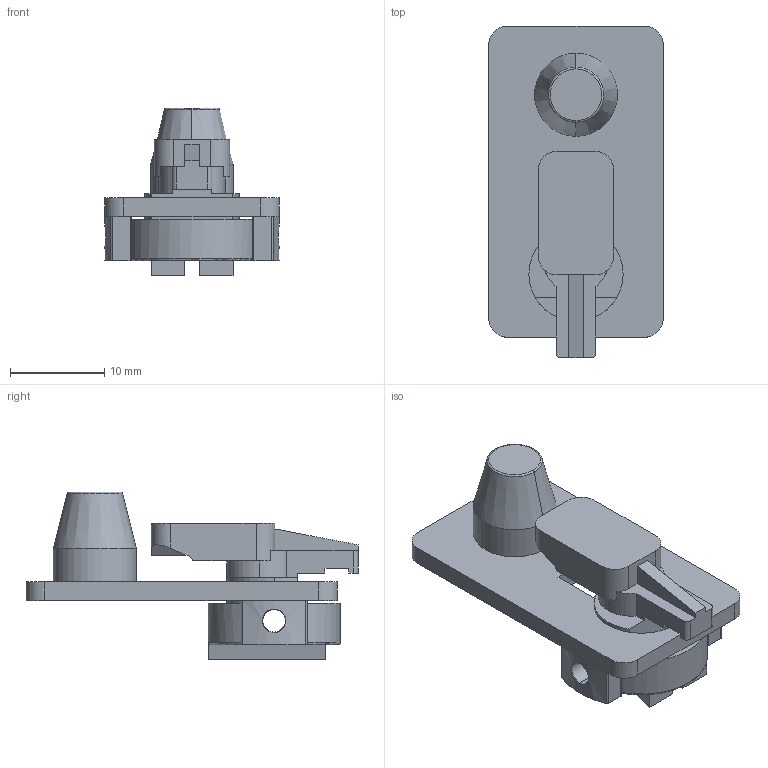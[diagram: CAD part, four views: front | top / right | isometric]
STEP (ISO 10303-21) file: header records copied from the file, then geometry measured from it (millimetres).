
FILE_DESCRIPTION (( 'STEP AP214' ), '1' );
FILE_NAME ('4.417.001.STEP', '2010-03-19T16:34:57', ( '£ukaszC' ), ( '' ), 'SwSTEP 2.0', 'SolidWorks 2008', '' );
FILE_SCHEMA (( 'AUTOMOTIVE_DESIGN' ));
Length unit declared in the file: millimetre
Products named in the file (3): 4.417.001.01_Domyœlna; 4.417.001; 4.417.002.01_Domyœlna
Assembly tree (2 placements, depth 2):
  4.417.001
    4.417.002.01_Domyœlna
    4.417.001.01_Domyœlna
Bounding box: 18.5 x 35.2 x 17.8 mm (x, y, z)
Volume: 2817.7 mm3; surface area: 3036.5 mm2
Topology: 2 solids, 2 shells, 116 faces, 312 edges, 200 vertices
Faces by surface type: plane 66, cylinder 42, torus 6, cone 2
Entity records: 3957 total; most frequent: CARTESIAN_POINT 919, DIRECTION 629, ORIENTED_EDGE 624, EDGE_CURVE 312, AXIS2_PLACEMENT_3D 222, VERTEX_POINT 200, LINE 185, VECTOR 185
